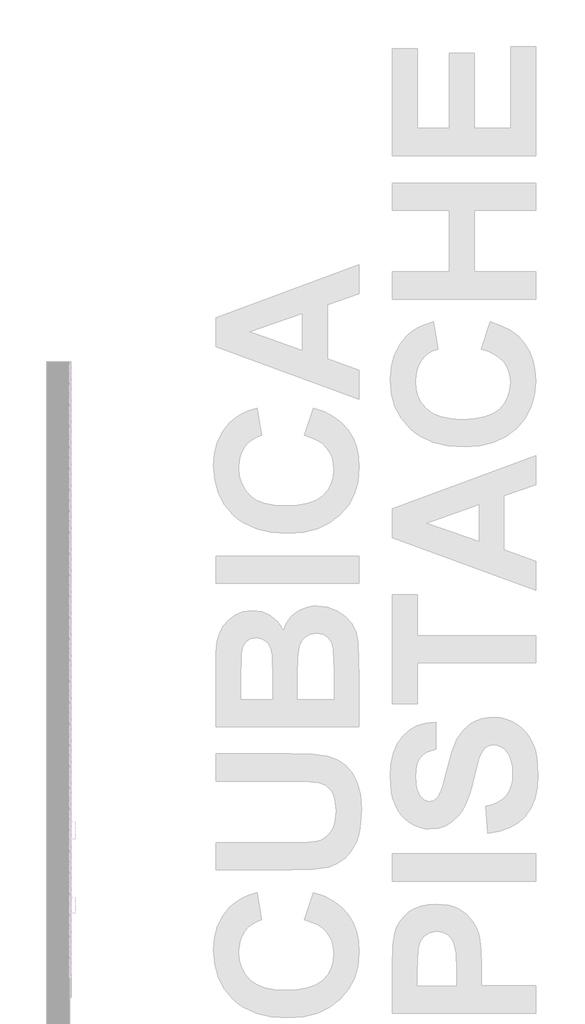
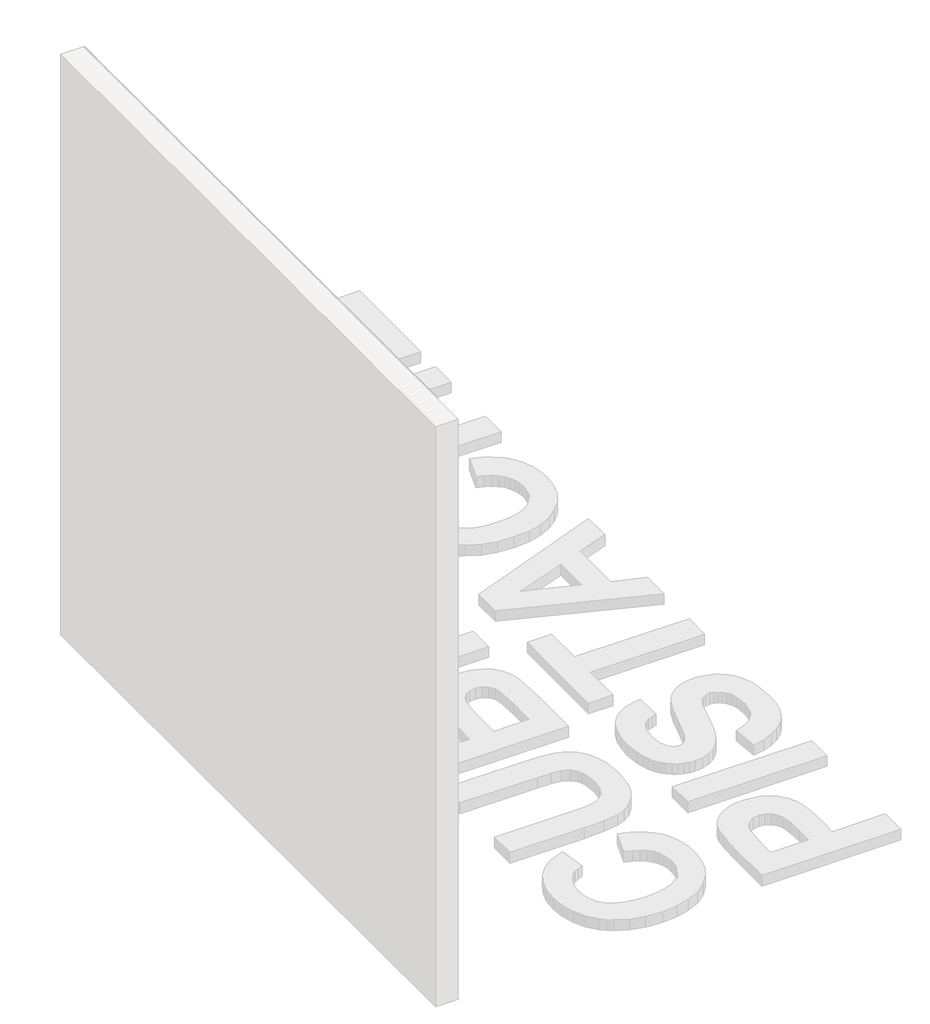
# One storey, part 93 of 121: 144 proxies.
"""IFC4 building model written with IfcOpenShell, lengths in millimetres."""

from ifc_helpers import new_model, si_unit, origin, place, context, project, spatial, transform, mapped, element, save
from components import generic_models_b2b2c5c1, generic_models_9bf73f6f, generic_models_5d175859, generic_models_336a48c1, generic_models_3c04e8e5, generic_models_0bb79e7c, generic_models_61989c10

model = new_model("IFC4")

# Units and contexts
model_context = context("Model", 3, world=origin())
ifc_project = project(units=[si_unit("LENGTHUNIT", "METRE", prefix="MILLI")], contexts=[model_context])

# Site, building, storey
site = spatial("IfcSite", under=ifc_project)
building = spatial("IfcBuilding", under=site)
storey = spatial("IfcBuildingStorey", under=building, Name="PORTOBELLO - SHOWROOM", Elevation=0.0)

# Proxies
placement = place(None, origin())
generic_models_shape = generic_models_b2b2c5c1(model_context)
element("IfcBuildingElementProxy", 1, Name="PBSHOP - CUBICA PISTACHE 4,8X8,3 : CUBICA PISTACHE - POSIÇÃO 01", ObjectType="PBSHOP - CUBICA PISTACHE 4,8X8,3 : CUBICA PISTACHE - POSIÇÃO 01", at=placement, inside=storey, context=model_context, shape_type="MappedRepresentation", body=[
    mapped(generic_models_shape, transform((150369.5341846, 15067.5294767, 355.1607203), x_axis=(0.0, 1.0, 0.0), y_axis=(0.0, 0.0, 1.0), z_axis=(1.0, 0.0, 0.0))),
])
element("IfcBuildingElementProxy", 2, Name="PBSHOP - CUBICA PISTACHE 4,8X8,3 : CUBICA PISTACHE - POSIÇÃO 01", ObjectType="PBSHOP - CUBICA PISTACHE 4,8X8,3 : CUBICA PISTACHE - POSIÇÃO 01", at=placement, inside=storey, context=model_context, shape_type="MappedRepresentation", body=[
    mapped(generic_models_shape, transform((150369.5341846, 15158.3687459, 355.1607203), x_axis=(0.0, 1.0, 0.0), y_axis=(0.0, 0.0, 1.0), z_axis=(1.0, 0.0, 0.0))),
])
element("IfcBuildingElementProxy", 3, Name="PBSHOP - CUBICA PISTACHE 4,8X8,3 : CUBICA PISTACHE - POSIÇÃO 01", ObjectType="PBSHOP - CUBICA PISTACHE 4,8X8,3 : CUBICA PISTACHE - POSIÇÃO 01", at=placement, inside=storey, context=model_context, shape_type="MappedRepresentation", body=[
    mapped(generic_models_shape, transform((150369.5341846, 15249.2080152, 355.1607203), x_axis=(0.0, 1.0, 0.0), y_axis=(0.0, 0.0, 1.0), z_axis=(1.0, 0.0, 0.0))),
])
element("IfcBuildingElementProxy", 4, Name="PBSHOP - CUBICA PISTACHE 4,8X8,3 : CUBICA PISTACHE - POSIÇÃO 01", ObjectType="PBSHOP - CUBICA PISTACHE 4,8X8,3 : CUBICA PISTACHE - POSIÇÃO 01", at=placement, inside=storey, context=model_context, shape_type="MappedRepresentation", body=[
    mapped(generic_models_shape, transform((150369.5341846, 15340.0472844, 355.1607203), x_axis=(0.0, 1.0, 0.0), y_axis=(0.0, 0.0, 1.0), z_axis=(1.0, 0.0, 0.0))),
])
element("IfcBuildingElementProxy", 5, Name="PBSHOP - CUBICA PISTACHE 4,8X8,3 : CUBICA PISTACHE - POSIÇÃO 01", ObjectType="PBSHOP - CUBICA PISTACHE 4,8X8,3 : CUBICA PISTACHE - POSIÇÃO 01", at=placement, inside=storey, context=model_context, shape_type="MappedRepresentation", body=[
    mapped(generic_models_shape, transform((150369.5341846, 15430.8865536, 355.1607203), x_axis=(0.0, 1.0, 0.0), y_axis=(0.0, 0.0, 1.0), z_axis=(1.0, 0.0, 0.0))),
])
element("IfcBuildingElementProxy", 6, Name="PBSHOP - CUBICA PISTACHE 4,8X8,3 : CUBICA PISTACHE - POSIÇÃO 01", ObjectType="PBSHOP - CUBICA PISTACHE 4,8X8,3 : CUBICA PISTACHE - POSIÇÃO 01", at=placement, inside=storey, context=model_context, shape_type="MappedRepresentation", body=[
    mapped(generic_models_shape, transform((150369.5341846, 15521.7258229, 355.1607203), x_axis=(0.0, 1.0, 0.0), y_axis=(0.0, 0.0, 1.0), z_axis=(1.0, 0.0, 0.0))),
])
element("IfcBuildingElementProxy", 7, Name="PBSHOP - CUBICA PISTACHE 4,8X8,3 : CUBICA PISTACHE - POSIÇÃO 01", ObjectType="PBSHOP - CUBICA PISTACHE 4,8X8,3 : CUBICA PISTACHE - POSIÇÃO 01", at=placement, inside=storey, context=model_context, shape_type="MappedRepresentation", body=[
    mapped(generic_models_shape, transform((150369.5341846, 15022.109842, 434.0953587), x_axis=(0.0, 1.0, 0.0), y_axis=(0.0, 0.0, 1.0), z_axis=(1.0, 0.0, 0.0))),
])
element("IfcBuildingElementProxy", 8, Name="PBSHOP - CUBICA PISTACHE 4,8X8,3 : CUBICA PISTACHE - POSIÇÃO 01", ObjectType="PBSHOP - CUBICA PISTACHE 4,8X8,3 : CUBICA PISTACHE - POSIÇÃO 01", at=placement, inside=storey, context=model_context, shape_type="MappedRepresentation", body=[
    mapped(generic_models_shape, transform((150369.5341846, 15112.9491113, 434.0953587), x_axis=(0.0, 1.0, 0.0), y_axis=(0.0, 0.0, 1.0), z_axis=(1.0, 0.0, 0.0))),
])
element("IfcBuildingElementProxy", 9, Name="PBSHOP - CUBICA PISTACHE 4,8X8,3 : CUBICA PISTACHE - POSIÇÃO 01", ObjectType="PBSHOP - CUBICA PISTACHE 4,8X8,3 : CUBICA PISTACHE - POSIÇÃO 01", at=placement, inside=storey, context=model_context, shape_type="MappedRepresentation", body=[
    mapped(generic_models_shape, transform((150369.5341846, 15203.7883805, 434.0953587), x_axis=(0.0, 1.0, 0.0), y_axis=(0.0, 0.0, 1.0), z_axis=(1.0, 0.0, 0.0))),
])
element("IfcBuildingElementProxy", 10, Name="PBSHOP - CUBICA PISTACHE 4,8X8,3 : CUBICA PISTACHE - POSIÇÃO 01", ObjectType="PBSHOP - CUBICA PISTACHE 4,8X8,3 : CUBICA PISTACHE - POSIÇÃO 01", at=placement, inside=storey, context=model_context, shape_type="MappedRepresentation", body=[
    mapped(generic_models_shape, transform((150369.5341846, 15294.6276498, 434.0953587), x_axis=(0.0, 1.0, 0.0), y_axis=(0.0, 0.0, 1.0), z_axis=(1.0, 0.0, 0.0))),
])
element("IfcBuildingElementProxy", 11, Name="PBSHOP - CUBICA PISTACHE 4,8X8,3 : CUBICA PISTACHE - POSIÇÃO 01", ObjectType="PBSHOP - CUBICA PISTACHE 4,8X8,3 : CUBICA PISTACHE - POSIÇÃO 01", at=placement, inside=storey, context=model_context, shape_type="MappedRepresentation", body=[
    mapped(generic_models_shape, transform((150369.5341846, 15385.466919, 434.0953587), x_axis=(0.0, 1.0, 0.0), y_axis=(0.0, 0.0, 1.0), z_axis=(1.0, 0.0, 0.0))),
])
element("IfcBuildingElementProxy", 12, Name="PBSHOP - CUBICA PISTACHE 4,8X8,3 : CUBICA PISTACHE - POSIÇÃO 01", ObjectType="PBSHOP - CUBICA PISTACHE 4,8X8,3 : CUBICA PISTACHE - POSIÇÃO 01", at=placement, inside=storey, context=model_context, shape_type="MappedRepresentation", body=[
    mapped(generic_models_shape, transform((150369.5341846, 15476.3061883, 434.0953587), x_axis=(0.0, 1.0, 0.0), y_axis=(0.0, 0.0, 1.0), z_axis=(1.0, 0.0, 0.0))),
])
element("IfcBuildingElementProxy", 13, Name="PBSHOP - CUBICA PISTACHE 4,8X8,3 : CUBICA PISTACHE - POSIÇÃO 01", ObjectType="PBSHOP - CUBICA PISTACHE 4,8X8,3 : CUBICA PISTACHE - POSIÇÃO 01", at=placement, inside=storey, context=model_context, shape_type="MappedRepresentation", body=[
    mapped(generic_models_shape, transform((150369.5341846, 15567.1454575, 434.0953587), x_axis=(0.0, 1.0, 0.0), y_axis=(0.0, 0.0, 1.0), z_axis=(1.0, 0.0, 0.0))),
])
element("IfcBuildingElementProxy", 14, Name="PBSHOP - CUBICA PISTACHE 4,8X8,3 : CUBICA PISTACHE - POSIÇÃO 01", ObjectType="PBSHOP - CUBICA PISTACHE 4,8X8,3 : CUBICA PISTACHE - POSIÇÃO 01", at=placement, inside=storey, context=model_context, shape_type="MappedRepresentation", body=[
    mapped(generic_models_shape, transform((150369.5341846, 15067.5294767, 513.0299971), x_axis=(0.0, 1.0, 0.0), y_axis=(0.0, 0.0, 1.0), z_axis=(1.0, 0.0, 0.0))),
])
element("IfcBuildingElementProxy", 15, Name="PBSHOP - CUBICA PISTACHE 4,8X8,3 : CUBICA PISTACHE - POSIÇÃO 01", ObjectType="PBSHOP - CUBICA PISTACHE 4,8X8,3 : CUBICA PISTACHE - POSIÇÃO 01", at=placement, inside=storey, context=model_context, shape_type="MappedRepresentation", body=[
    mapped(generic_models_shape, transform((150369.5341846, 15158.3687459, 513.0299971), x_axis=(0.0, 1.0, 0.0), y_axis=(0.0, 0.0, 1.0), z_axis=(1.0, 0.0, 0.0))),
])
element("IfcBuildingElementProxy", 16, Name="PBSHOP - CUBICA PISTACHE 4,8X8,3 : CUBICA PISTACHE - POSIÇÃO 01", ObjectType="PBSHOP - CUBICA PISTACHE 4,8X8,3 : CUBICA PISTACHE - POSIÇÃO 01", at=placement, inside=storey, context=model_context, shape_type="MappedRepresentation", body=[
    mapped(generic_models_shape, transform((150369.5341846, 15249.2080152, 513.0299971), x_axis=(0.0, 1.0, 0.0), y_axis=(0.0, 0.0, 1.0), z_axis=(1.0, 0.0, 0.0))),
])
element("IfcBuildingElementProxy", 17, Name="PBSHOP - CUBICA PISTACHE 4,8X8,3 : CUBICA PISTACHE - POSIÇÃO 01", ObjectType="PBSHOP - CUBICA PISTACHE 4,8X8,3 : CUBICA PISTACHE - POSIÇÃO 01", at=placement, inside=storey, context=model_context, shape_type="MappedRepresentation", body=[
    mapped(generic_models_shape, transform((150369.5341846, 15340.0472844, 513.0299971), x_axis=(0.0, 1.0, 0.0), y_axis=(0.0, 0.0, 1.0), z_axis=(1.0, 0.0, 0.0))),
])
element("IfcBuildingElementProxy", 18, Name="PBSHOP - CUBICA PISTACHE 4,8X8,3 : CUBICA PISTACHE - POSIÇÃO 01", ObjectType="PBSHOP - CUBICA PISTACHE 4,8X8,3 : CUBICA PISTACHE - POSIÇÃO 01", at=placement, inside=storey, context=model_context, shape_type="MappedRepresentation", body=[
    mapped(generic_models_shape, transform((150369.5341846, 15430.8865536, 513.0299971), x_axis=(0.0, 1.0, 0.0), y_axis=(0.0, 0.0, 1.0), z_axis=(1.0, 0.0, 0.0))),
])
element("IfcBuildingElementProxy", 19, Name="PBSHOP - CUBICA PISTACHE 4,8X8,3 : CUBICA PISTACHE - POSIÇÃO 01", ObjectType="PBSHOP - CUBICA PISTACHE 4,8X8,3 : CUBICA PISTACHE - POSIÇÃO 01", at=placement, inside=storey, context=model_context, shape_type="MappedRepresentation", body=[
    mapped(generic_models_shape, transform((150369.5341846, 15521.7258229, 513.0299971), x_axis=(0.0, 1.0, 0.0), y_axis=(0.0, 0.0, 1.0), z_axis=(1.0, 0.0, 0.0))),
])
element("IfcBuildingElementProxy", 20, Name="PBSHOP - CUBICA PISTACHE 4,8X8,3 : CUBICA PISTACHE - POSIÇÃO 01", ObjectType="PBSHOP - CUBICA PISTACHE 4,8X8,3 : CUBICA PISTACHE - POSIÇÃO 01", at=placement, inside=storey, context=model_context, shape_type="MappedRepresentation", body=[
    mapped(generic_models_shape, transform((150369.5341846, 15022.109842, 591.9646354), x_axis=(0.0, 1.0, 0.0), y_axis=(0.0, 0.0, 1.0), z_axis=(1.0, 0.0, 0.0))),
])
element("IfcBuildingElementProxy", 21, Name="PBSHOP - CUBICA PISTACHE 4,8X8,3 : CUBICA PISTACHE - POSIÇÃO 01", ObjectType="PBSHOP - CUBICA PISTACHE 4,8X8,3 : CUBICA PISTACHE - POSIÇÃO 01", at=placement, inside=storey, context=model_context, shape_type="MappedRepresentation", body=[
    mapped(generic_models_shape, transform((150369.5341846, 15112.9491113, 591.9646354), x_axis=(0.0, 1.0, 0.0), y_axis=(0.0, 0.0, 1.0), z_axis=(1.0, 0.0, 0.0))),
])
element("IfcBuildingElementProxy", 22, Name="PBSHOP - CUBICA PISTACHE 4,8X8,3 : CUBICA PISTACHE - POSIÇÃO 01", ObjectType="PBSHOP - CUBICA PISTACHE 4,8X8,3 : CUBICA PISTACHE - POSIÇÃO 01", at=placement, inside=storey, context=model_context, shape_type="MappedRepresentation", body=[
    mapped(generic_models_shape, transform((150369.5341846, 15203.7883805, 591.9646354), x_axis=(0.0, 1.0, 0.0), y_axis=(0.0, 0.0, 1.0), z_axis=(1.0, 0.0, 0.0))),
])
element("IfcBuildingElementProxy", 23, Name="PBSHOP - CUBICA PISTACHE 4,8X8,3 : CUBICA PISTACHE - POSIÇÃO 01", ObjectType="PBSHOP - CUBICA PISTACHE 4,8X8,3 : CUBICA PISTACHE - POSIÇÃO 01", at=placement, inside=storey, context=model_context, shape_type="MappedRepresentation", body=[
    mapped(generic_models_shape, transform((150369.5341846, 15294.6276498, 591.9646354), x_axis=(0.0, 1.0, 0.0), y_axis=(0.0, 0.0, 1.0), z_axis=(1.0, 0.0, 0.0))),
])
element("IfcBuildingElementProxy", 24, Name="PBSHOP - CUBICA PISTACHE 4,8X8,3 : CUBICA PISTACHE - POSIÇÃO 01", ObjectType="PBSHOP - CUBICA PISTACHE 4,8X8,3 : CUBICA PISTACHE - POSIÇÃO 01", at=placement, inside=storey, context=model_context, shape_type="MappedRepresentation", body=[
    mapped(generic_models_shape, transform((150369.5341846, 15385.466919, 591.9646354), x_axis=(0.0, 1.0, 0.0), y_axis=(0.0, 0.0, 1.0), z_axis=(1.0, 0.0, 0.0))),
])
element("IfcBuildingElementProxy", 25, Name="PBSHOP - CUBICA PISTACHE 4,8X8,3 : CUBICA PISTACHE - POSIÇÃO 01", ObjectType="PBSHOP - CUBICA PISTACHE 4,8X8,3 : CUBICA PISTACHE - POSIÇÃO 01", at=placement, inside=storey, context=model_context, shape_type="MappedRepresentation", body=[
    mapped(generic_models_shape, transform((150369.5341846, 15476.3061883, 591.9646354), x_axis=(0.0, 1.0, 0.0), y_axis=(0.0, 0.0, 1.0), z_axis=(1.0, 0.0, 0.0))),
])
element("IfcBuildingElementProxy", 26, Name="PBSHOP - CUBICA PISTACHE 4,8X8,3 : CUBICA PISTACHE - POSIÇÃO 01", ObjectType="PBSHOP - CUBICA PISTACHE 4,8X8,3 : CUBICA PISTACHE - POSIÇÃO 01", at=placement, inside=storey, context=model_context, shape_type="MappedRepresentation", body=[
    mapped(generic_models_shape, transform((150369.5341846, 15567.1454575, 591.9646354), x_axis=(0.0, 1.0, 0.0), y_axis=(0.0, 0.0, 1.0), z_axis=(1.0, 0.0, 0.0))),
])
element("IfcBuildingElementProxy", 27, Name="PBSHOP - CUBICA PISTACHE 4,8X8,3 : CUBICA PISTACHE - POSIÇÃO 01", ObjectType="PBSHOP - CUBICA PISTACHE 4,8X8,3 : CUBICA PISTACHE - POSIÇÃO 01", at=placement, inside=storey, context=model_context, shape_type="MappedRepresentation", body=[
    mapped(generic_models_shape, transform((150369.5341846, 15067.5294767, 670.8992738), x_axis=(0.0, 1.0, 0.0), y_axis=(0.0, 0.0, 1.0), z_axis=(1.0, 0.0, 0.0))),
])
element("IfcBuildingElementProxy", 28, Name="PBSHOP - CUBICA PISTACHE 4,8X8,3 : CUBICA PISTACHE - POSIÇÃO 01", ObjectType="PBSHOP - CUBICA PISTACHE 4,8X8,3 : CUBICA PISTACHE - POSIÇÃO 01", at=placement, inside=storey, context=model_context, shape_type="MappedRepresentation", body=[
    mapped(generic_models_shape, transform((150369.5341846, 15158.3687459, 670.8992738), x_axis=(0.0, 1.0, 0.0), y_axis=(0.0, 0.0, 1.0), z_axis=(1.0, 0.0, 0.0))),
])
element("IfcBuildingElementProxy", 29, Name="PBSHOP - CUBICA PISTACHE 4,8X8,3 : CUBICA PISTACHE - POSIÇÃO 01", ObjectType="PBSHOP - CUBICA PISTACHE 4,8X8,3 : CUBICA PISTACHE - POSIÇÃO 01", at=placement, inside=storey, context=model_context, shape_type="MappedRepresentation", body=[
    mapped(generic_models_shape, transform((150369.5341846, 15249.2080152, 670.8992738), x_axis=(0.0, 1.0, 0.0), y_axis=(0.0, 0.0, 1.0), z_axis=(1.0, 0.0, 0.0))),
])
element("IfcBuildingElementProxy", 30, Name="PBSHOP - CUBICA PISTACHE 4,8X8,3 : CUBICA PISTACHE - POSIÇÃO 01", ObjectType="PBSHOP - CUBICA PISTACHE 4,8X8,3 : CUBICA PISTACHE - POSIÇÃO 01", at=placement, inside=storey, context=model_context, shape_type="MappedRepresentation", body=[
    mapped(generic_models_shape, transform((150369.5341846, 15340.0472844, 670.8992738), x_axis=(0.0, 1.0, 0.0), y_axis=(0.0, 0.0, 1.0), z_axis=(1.0, 0.0, 0.0))),
])
element("IfcBuildingElementProxy", 31, Name="PBSHOP - CUBICA PISTACHE 4,8X8,3 : CUBICA PISTACHE - POSIÇÃO 01", ObjectType="PBSHOP - CUBICA PISTACHE 4,8X8,3 : CUBICA PISTACHE - POSIÇÃO 01", at=placement, inside=storey, context=model_context, shape_type="MappedRepresentation", body=[
    mapped(generic_models_shape, transform((150369.5341846, 15430.8865536, 670.8992738), x_axis=(0.0, 1.0, 0.0), y_axis=(0.0, 0.0, 1.0), z_axis=(1.0, 0.0, 0.0))),
])
element("IfcBuildingElementProxy", 32, Name="PBSHOP - CUBICA PISTACHE 4,8X8,3 : CUBICA PISTACHE - POSIÇÃO 01", ObjectType="PBSHOP - CUBICA PISTACHE 4,8X8,3 : CUBICA PISTACHE - POSIÇÃO 01", at=placement, inside=storey, context=model_context, shape_type="MappedRepresentation", body=[
    mapped(generic_models_shape, transform((150369.5341846, 15521.7258229, 670.8992738), x_axis=(0.0, 1.0, 0.0), y_axis=(0.0, 0.0, 1.0), z_axis=(1.0, 0.0, 0.0))),
])
element("IfcBuildingElementProxy", 33, Name="PBSHOP - CUBICA PISTACHE 4,8X8,3 : CUBICA PISTACHE - POSIÇÃO 01", ObjectType="PBSHOP - CUBICA PISTACHE 4,8X8,3 : CUBICA PISTACHE - POSIÇÃO 01", at=placement, inside=storey, context=model_context, shape_type="MappedRepresentation", body=[
    mapped(generic_models_shape, transform((150369.5341846, 15022.109842, 749.8339122), x_axis=(0.0, 1.0, 0.0), y_axis=(0.0, 0.0, 1.0), z_axis=(1.0, 0.0, 0.0))),
])
element("IfcBuildingElementProxy", 34, Name="PBSHOP - CUBICA PISTACHE 4,8X8,3 : CUBICA PISTACHE - POSIÇÃO 01", ObjectType="PBSHOP - CUBICA PISTACHE 4,8X8,3 : CUBICA PISTACHE - POSIÇÃO 01", at=placement, inside=storey, context=model_context, shape_type="MappedRepresentation", body=[
    mapped(generic_models_shape, transform((150369.5341846, 15112.9491113, 749.8339122), x_axis=(0.0, 1.0, 0.0), y_axis=(0.0, 0.0, 1.0), z_axis=(1.0, 0.0, 0.0))),
])
element("IfcBuildingElementProxy", 35, Name="PBSHOP - CUBICA PISTACHE 4,8X8,3 : CUBICA PISTACHE - POSIÇÃO 01", ObjectType="PBSHOP - CUBICA PISTACHE 4,8X8,3 : CUBICA PISTACHE - POSIÇÃO 01", at=placement, inside=storey, context=model_context, shape_type="MappedRepresentation", body=[
    mapped(generic_models_shape, transform((150369.5341846, 15203.7883805, 749.8339122), x_axis=(0.0, 1.0, 0.0), y_axis=(0.0, 0.0, 1.0), z_axis=(1.0, 0.0, 0.0))),
])
element("IfcBuildingElementProxy", 36, Name="PBSHOP - CUBICA PISTACHE 4,8X8,3 : CUBICA PISTACHE - POSIÇÃO 01", ObjectType="PBSHOP - CUBICA PISTACHE 4,8X8,3 : CUBICA PISTACHE - POSIÇÃO 01", at=placement, inside=storey, context=model_context, shape_type="MappedRepresentation", body=[
    mapped(generic_models_shape, transform((150369.5341846, 15294.6276498, 749.8339122), x_axis=(0.0, 1.0, 0.0), y_axis=(0.0, 0.0, 1.0), z_axis=(1.0, 0.0, 0.0))),
])
element("IfcBuildingElementProxy", 37, Name="PBSHOP - CUBICA PISTACHE 4,8X8,3 : CUBICA PISTACHE - POSIÇÃO 01", ObjectType="PBSHOP - CUBICA PISTACHE 4,8X8,3 : CUBICA PISTACHE - POSIÇÃO 01", at=placement, inside=storey, context=model_context, shape_type="MappedRepresentation", body=[
    mapped(generic_models_shape, transform((150369.5341846, 15385.466919, 749.8339122), x_axis=(0.0, 1.0, 0.0), y_axis=(0.0, 0.0, 1.0), z_axis=(1.0, 0.0, 0.0))),
])
element("IfcBuildingElementProxy", 38, Name="PBSHOP - CUBICA PISTACHE 4,8X8,3 : CUBICA PISTACHE - POSIÇÃO 01", ObjectType="PBSHOP - CUBICA PISTACHE 4,8X8,3 : CUBICA PISTACHE - POSIÇÃO 01", at=placement, inside=storey, context=model_context, shape_type="MappedRepresentation", body=[
    mapped(generic_models_shape, transform((150369.5341846, 15476.3061883, 749.8339122), x_axis=(0.0, 1.0, 0.0), y_axis=(0.0, 0.0, 1.0), z_axis=(1.0, 0.0, 0.0))),
])
element("IfcBuildingElementProxy", 39, Name="PBSHOP - CUBICA PISTACHE 4,8X8,3 : CUBICA PISTACHE - POSIÇÃO 01", ObjectType="PBSHOP - CUBICA PISTACHE 4,8X8,3 : CUBICA PISTACHE - POSIÇÃO 01", at=placement, inside=storey, context=model_context, shape_type="MappedRepresentation", body=[
    mapped(generic_models_shape, transform((150369.5341846, 15567.1454575, 749.8339122), x_axis=(0.0, 1.0, 0.0), y_axis=(0.0, 0.0, 1.0), z_axis=(1.0, 0.0, 0.0))),
])
element("IfcBuildingElementProxy", 40, Name="PBSHOP - CUBICA PISTACHE 4,8X8,3 : CUBICA PISTACHE - POSIÇÃO 01", ObjectType="PBSHOP - CUBICA PISTACHE 4,8X8,3 : CUBICA PISTACHE - POSIÇÃO 01", at=placement, inside=storey, context=model_context, shape_type="MappedRepresentation", body=[
    mapped(generic_models_shape, transform((150369.5341846, 15067.5294767, 828.7685506), x_axis=(0.0, 1.0, 0.0), y_axis=(0.0, 0.0, 1.0), z_axis=(1.0, 0.0, 0.0))),
])
element("IfcBuildingElementProxy", 41, Name="PBSHOP - CUBICA PISTACHE 4,8X8,3 : CUBICA PISTACHE - POSIÇÃO 01", ObjectType="PBSHOP - CUBICA PISTACHE 4,8X8,3 : CUBICA PISTACHE - POSIÇÃO 01", at=placement, inside=storey, context=model_context, shape_type="MappedRepresentation", body=[
    mapped(generic_models_shape, transform((150369.5341846, 15158.3687459, 828.7685506), x_axis=(0.0, 1.0, 0.0), y_axis=(0.0, 0.0, 1.0), z_axis=(1.0, 0.0, 0.0))),
])
element("IfcBuildingElementProxy", 42, Name="PBSHOP - CUBICA PISTACHE 4,8X8,3 : CUBICA PISTACHE - POSIÇÃO 01", ObjectType="PBSHOP - CUBICA PISTACHE 4,8X8,3 : CUBICA PISTACHE - POSIÇÃO 01", at=placement, inside=storey, context=model_context, shape_type="MappedRepresentation", body=[
    mapped(generic_models_shape, transform((150369.5341846, 15249.2080152, 828.7685506), x_axis=(0.0, 1.0, 0.0), y_axis=(0.0, 0.0, 1.0), z_axis=(1.0, 0.0, 0.0))),
])
element("IfcBuildingElementProxy", 43, Name="PBSHOP - CUBICA PISTACHE 4,8X8,3 : CUBICA PISTACHE - POSIÇÃO 01", ObjectType="PBSHOP - CUBICA PISTACHE 4,8X8,3 : CUBICA PISTACHE - POSIÇÃO 01", at=placement, inside=storey, context=model_context, shape_type="MappedRepresentation", body=[
    mapped(generic_models_shape, transform((150369.5341846, 15340.0472844, 828.7685506), x_axis=(0.0, 1.0, 0.0), y_axis=(0.0, 0.0, 1.0), z_axis=(1.0, 0.0, 0.0))),
])
element("IfcBuildingElementProxy", 44, Name="PBSHOP - CUBICA PISTACHE 4,8X8,3 : CUBICA PISTACHE - POSIÇÃO 01", ObjectType="PBSHOP - CUBICA PISTACHE 4,8X8,3 : CUBICA PISTACHE - POSIÇÃO 01", at=placement, inside=storey, context=model_context, shape_type="MappedRepresentation", body=[
    mapped(generic_models_shape, transform((150369.5341846, 15430.8865536, 828.7685506), x_axis=(0.0, 1.0, 0.0), y_axis=(0.0, 0.0, 1.0), z_axis=(1.0, 0.0, 0.0))),
])
element("IfcBuildingElementProxy", 45, Name="PBSHOP - CUBICA PISTACHE 4,8X8,3 : CUBICA PISTACHE - POSIÇÃO 01", ObjectType="PBSHOP - CUBICA PISTACHE 4,8X8,3 : CUBICA PISTACHE - POSIÇÃO 01", at=placement, inside=storey, context=model_context, shape_type="MappedRepresentation", body=[
    mapped(generic_models_shape, transform((150369.5341846, 15521.7258229, 828.7685506), x_axis=(0.0, 1.0, 0.0), y_axis=(0.0, 0.0, 1.0), z_axis=(1.0, 0.0, 0.0))),
])
generic_models_2_shape = generic_models_9bf73f6f(model_context)
element("IfcBuildingElementProxy", 46, Name="PBSHOP - CUBICA PISTACHE 4,8X8,3 : CUBICA PISTACHE - POSIÇÃO 03", ObjectType="PBSHOP - CUBICA PISTACHE 4,8X8,3 : CUBICA PISTACHE - POSIÇÃO 03", at=placement, inside=storey, context=model_context, shape_type="MappedRepresentation", body=[
    mapped(generic_models_2_shape, transform((150369.5341846, 15453.5985301, 236.7175523), x_axis=(0.0, 1.0, 0.0), y_axis=(0.0, 0.0, 1.0), z_axis=(1.0, 0.0, 0.0))),
])
element("IfcBuildingElementProxy", 47, Name="PBSHOP - CUBICA PISTACHE 4,8X8,3 : CUBICA PISTACHE - POSIÇÃO 03", ObjectType="PBSHOP - CUBICA PISTACHE 4,8X8,3 : CUBICA PISTACHE - POSIÇÃO 03", at=placement, inside=storey, context=model_context, shape_type="MappedRepresentation", body=[
    mapped(generic_models_2_shape, transform((150369.5341846, 15544.4377994, 236.7175523), x_axis=(0.0, 1.0, 0.0), y_axis=(0.0, 0.0, 1.0), z_axis=(1.0, 0.0, 0.0))),
])
element("IfcBuildingElementProxy", 48, Name="PBSHOP - CUBICA PISTACHE 4,8X8,3 : CUBICA PISTACHE - POSIÇÃO 03", ObjectType="PBSHOP - CUBICA PISTACHE 4,8X8,3 : CUBICA PISTACHE - POSIÇÃO 03", at=placement, inside=storey, context=model_context, shape_type="MappedRepresentation", body=[
    mapped(generic_models_2_shape, transform((150369.5341846, 15044.8218185, 315.6521907), x_axis=(0.0, 1.0, 0.0), y_axis=(0.0, 0.0, 1.0), z_axis=(1.0, 0.0, 0.0))),
])
element("IfcBuildingElementProxy", 49, Name="PBSHOP - CUBICA PISTACHE 4,8X8,3 : CUBICA PISTACHE - POSIÇÃO 03", ObjectType="PBSHOP - CUBICA PISTACHE 4,8X8,3 : CUBICA PISTACHE - POSIÇÃO 03", at=placement, inside=storey, context=model_context, shape_type="MappedRepresentation", body=[
    mapped(generic_models_2_shape, transform((150369.5341846, 15135.6610878, 315.6521907), x_axis=(0.0, 1.0, 0.0), y_axis=(0.0, 0.0, 1.0), z_axis=(1.0, 0.0, 0.0))),
])
element("IfcBuildingElementProxy", 50, Name="PBSHOP - CUBICA PISTACHE 4,8X8,3 : CUBICA PISTACHE - POSIÇÃO 03", ObjectType="PBSHOP - CUBICA PISTACHE 4,8X8,3 : CUBICA PISTACHE - POSIÇÃO 03", at=placement, inside=storey, context=model_context, shape_type="MappedRepresentation", body=[
    mapped(generic_models_2_shape, transform((150369.5341846, 15226.500357, 315.6521907), x_axis=(0.0, 1.0, 0.0), y_axis=(0.0, 0.0, 1.0), z_axis=(1.0, 0.0, 0.0))),
])
element("IfcBuildingElementProxy", 51, Name="PBSHOP - CUBICA PISTACHE 4,8X8,3 : CUBICA PISTACHE - POSIÇÃO 03", ObjectType="PBSHOP - CUBICA PISTACHE 4,8X8,3 : CUBICA PISTACHE - POSIÇÃO 03", at=placement, inside=storey, context=model_context, shape_type="MappedRepresentation", body=[
    mapped(generic_models_2_shape, transform((150369.5341846, 15317.3396263, 315.6521907), x_axis=(0.0, 1.0, 0.0), y_axis=(0.0, 0.0, 1.0), z_axis=(1.0, 0.0, 0.0))),
])
element("IfcBuildingElementProxy", 52, Name="PBSHOP - CUBICA PISTACHE 4,8X8,3 : CUBICA PISTACHE - POSIÇÃO 03", ObjectType="PBSHOP - CUBICA PISTACHE 4,8X8,3 : CUBICA PISTACHE - POSIÇÃO 03", at=placement, inside=storey, context=model_context, shape_type="MappedRepresentation", body=[
    mapped(generic_models_2_shape, transform((150369.5341846, 15408.1788955, 315.6521907), x_axis=(0.0, 1.0, 0.0), y_axis=(0.0, 0.0, 1.0), z_axis=(1.0, 0.0, 0.0))),
])
element("IfcBuildingElementProxy", 53, Name="PBSHOP - CUBICA PISTACHE 4,8X8,3 : CUBICA PISTACHE - POSIÇÃO 03", ObjectType="PBSHOP - CUBICA PISTACHE 4,8X8,3 : CUBICA PISTACHE - POSIÇÃO 03", at=placement, inside=storey, context=model_context, shape_type="MappedRepresentation", body=[
    mapped(generic_models_2_shape, transform((150369.5341846, 15499.0181647, 315.6521907), x_axis=(0.0, 1.0, 0.0), y_axis=(0.0, 0.0, 1.0), z_axis=(1.0, 0.0, 0.0))),
])
element("IfcBuildingElementProxy", 54, Name="PBSHOP - CUBICA PISTACHE 4,8X8,3 : CUBICA PISTACHE - POSIÇÃO 03", ObjectType="PBSHOP - CUBICA PISTACHE 4,8X8,3 : CUBICA PISTACHE - POSIÇÃO 03", at=placement, inside=storey, context=model_context, shape_type="MappedRepresentation", body=[
    mapped(generic_models_2_shape, transform((150369.5341846, 15090.2414531, 394.5868291), x_axis=(0.0, 1.0, 0.0), y_axis=(0.0, 0.0, 1.0), z_axis=(1.0, 0.0, 0.0))),
])
element("IfcBuildingElementProxy", 55, Name="PBSHOP - CUBICA PISTACHE 4,8X8,3 : CUBICA PISTACHE - POSIÇÃO 03", ObjectType="PBSHOP - CUBICA PISTACHE 4,8X8,3 : CUBICA PISTACHE - POSIÇÃO 03", at=placement, inside=storey, context=model_context, shape_type="MappedRepresentation", body=[
    mapped(generic_models_2_shape, transform((150369.5341846, 15181.0807224, 394.5868291), x_axis=(0.0, 1.0, 0.0), y_axis=(0.0, 0.0, 1.0), z_axis=(1.0, 0.0, 0.0))),
])
element("IfcBuildingElementProxy", 56, Name="PBSHOP - CUBICA PISTACHE 4,8X8,3 : CUBICA PISTACHE - POSIÇÃO 03", ObjectType="PBSHOP - CUBICA PISTACHE 4,8X8,3 : CUBICA PISTACHE - POSIÇÃO 03", at=placement, inside=storey, context=model_context, shape_type="MappedRepresentation", body=[
    mapped(generic_models_2_shape, transform((150369.5341846, 15271.9199916, 394.5868291), x_axis=(0.0, 1.0, 0.0), y_axis=(0.0, 0.0, 1.0), z_axis=(1.0, 0.0, 0.0))),
])
element("IfcBuildingElementProxy", 57, Name="PBSHOP - CUBICA PISTACHE 4,8X8,3 : CUBICA PISTACHE - POSIÇÃO 03", ObjectType="PBSHOP - CUBICA PISTACHE 4,8X8,3 : CUBICA PISTACHE - POSIÇÃO 03", at=placement, inside=storey, context=model_context, shape_type="MappedRepresentation", body=[
    mapped(generic_models_2_shape, transform((150369.5341846, 15362.7592609, 394.5868291), x_axis=(0.0, 1.0, 0.0), y_axis=(0.0, 0.0, 1.0), z_axis=(1.0, 0.0, 0.0))),
])
element("IfcBuildingElementProxy", 58, Name="PBSHOP - CUBICA PISTACHE 4,8X8,3 : CUBICA PISTACHE - POSIÇÃO 03", ObjectType="PBSHOP - CUBICA PISTACHE 4,8X8,3 : CUBICA PISTACHE - POSIÇÃO 03", at=placement, inside=storey, context=model_context, shape_type="MappedRepresentation", body=[
    mapped(generic_models_2_shape, transform((150369.5341846, 15453.5985301, 394.5868291), x_axis=(0.0, 1.0, 0.0), y_axis=(0.0, 0.0, 1.0), z_axis=(1.0, 0.0, 0.0))),
])
element("IfcBuildingElementProxy", 59, Name="PBSHOP - CUBICA PISTACHE 4,8X8,3 : CUBICA PISTACHE - POSIÇÃO 03", ObjectType="PBSHOP - CUBICA PISTACHE 4,8X8,3 : CUBICA PISTACHE - POSIÇÃO 03", at=placement, inside=storey, context=model_context, shape_type="MappedRepresentation", body=[
    mapped(generic_models_2_shape, transform((150369.5341846, 15544.4377994, 394.5868291), x_axis=(0.0, 1.0, 0.0), y_axis=(0.0, 0.0, 1.0), z_axis=(1.0, 0.0, 0.0))),
])
element("IfcBuildingElementProxy", 60, Name="PBSHOP - CUBICA PISTACHE 4,8X8,3 : CUBICA PISTACHE - POSIÇÃO 03", ObjectType="PBSHOP - CUBICA PISTACHE 4,8X8,3 : CUBICA PISTACHE - POSIÇÃO 03", at=placement, inside=storey, context=model_context, shape_type="MappedRepresentation", body=[
    mapped(generic_models_2_shape, transform((150369.5341846, 15044.8218185, 473.5214674), x_axis=(0.0, 1.0, 0.0), y_axis=(0.0, 0.0, 1.0), z_axis=(1.0, 0.0, 0.0))),
])
element("IfcBuildingElementProxy", 61, Name="PBSHOP - CUBICA PISTACHE 4,8X8,3 : CUBICA PISTACHE - POSIÇÃO 03", ObjectType="PBSHOP - CUBICA PISTACHE 4,8X8,3 : CUBICA PISTACHE - POSIÇÃO 03", at=placement, inside=storey, context=model_context, shape_type="MappedRepresentation", body=[
    mapped(generic_models_2_shape, transform((150369.5341846, 15135.6610878, 473.5214674), x_axis=(0.0, 1.0, 0.0), y_axis=(0.0, 0.0, 1.0), z_axis=(1.0, 0.0, 0.0))),
])
element("IfcBuildingElementProxy", 62, Name="PBSHOP - CUBICA PISTACHE 4,8X8,3 : CUBICA PISTACHE - POSIÇÃO 03", ObjectType="PBSHOP - CUBICA PISTACHE 4,8X8,3 : CUBICA PISTACHE - POSIÇÃO 03", at=placement, inside=storey, context=model_context, shape_type="MappedRepresentation", body=[
    mapped(generic_models_2_shape, transform((150369.5341846, 15226.500357, 473.5214674), x_axis=(0.0, 1.0, 0.0), y_axis=(0.0, 0.0, 1.0), z_axis=(1.0, 0.0, 0.0))),
])
element("IfcBuildingElementProxy", 63, Name="PBSHOP - CUBICA PISTACHE 4,8X8,3 : CUBICA PISTACHE - POSIÇÃO 03", ObjectType="PBSHOP - CUBICA PISTACHE 4,8X8,3 : CUBICA PISTACHE - POSIÇÃO 03", at=placement, inside=storey, context=model_context, shape_type="MappedRepresentation", body=[
    mapped(generic_models_2_shape, transform((150369.5341846, 15317.3396263, 473.5214674), x_axis=(0.0, 1.0, 0.0), y_axis=(0.0, 0.0, 1.0), z_axis=(1.0, 0.0, 0.0))),
])
element("IfcBuildingElementProxy", 64, Name="PBSHOP - CUBICA PISTACHE 4,8X8,3 : CUBICA PISTACHE - POSIÇÃO 03", ObjectType="PBSHOP - CUBICA PISTACHE 4,8X8,3 : CUBICA PISTACHE - POSIÇÃO 03", at=placement, inside=storey, context=model_context, shape_type="MappedRepresentation", body=[
    mapped(generic_models_2_shape, transform((150369.5341846, 15408.1788955, 473.5214674), x_axis=(0.0, 1.0, 0.0), y_axis=(0.0, 0.0, 1.0), z_axis=(1.0, 0.0, 0.0))),
])
element("IfcBuildingElementProxy", 65, Name="PBSHOP - CUBICA PISTACHE 4,8X8,3 : CUBICA PISTACHE - POSIÇÃO 03", ObjectType="PBSHOP - CUBICA PISTACHE 4,8X8,3 : CUBICA PISTACHE - POSIÇÃO 03", at=placement, inside=storey, context=model_context, shape_type="MappedRepresentation", body=[
    mapped(generic_models_2_shape, transform((150369.5341846, 15499.0181647, 473.5214674), x_axis=(0.0, 1.0, 0.0), y_axis=(0.0, 0.0, 1.0), z_axis=(1.0, 0.0, 0.0))),
])
element("IfcBuildingElementProxy", 66, Name="PBSHOP - CUBICA PISTACHE 4,8X8,3 : CUBICA PISTACHE - POSIÇÃO 03", ObjectType="PBSHOP - CUBICA PISTACHE 4,8X8,3 : CUBICA PISTACHE - POSIÇÃO 03", at=placement, inside=storey, context=model_context, shape_type="MappedRepresentation", body=[
    mapped(generic_models_2_shape, transform((150369.5341846, 15090.2414531, 552.4561058), x_axis=(0.0, 1.0, 0.0), y_axis=(0.0, 0.0, 1.0), z_axis=(1.0, 0.0, 0.0))),
])
element("IfcBuildingElementProxy", 67, Name="PBSHOP - CUBICA PISTACHE 4,8X8,3 : CUBICA PISTACHE - POSIÇÃO 03", ObjectType="PBSHOP - CUBICA PISTACHE 4,8X8,3 : CUBICA PISTACHE - POSIÇÃO 03", at=placement, inside=storey, context=model_context, shape_type="MappedRepresentation", body=[
    mapped(generic_models_2_shape, transform((150369.5341846, 15181.0807224, 552.4561058), x_axis=(0.0, 1.0, 0.0), y_axis=(0.0, 0.0, 1.0), z_axis=(1.0, 0.0, 0.0))),
])
element("IfcBuildingElementProxy", 68, Name="PBSHOP - CUBICA PISTACHE 4,8X8,3 : CUBICA PISTACHE - POSIÇÃO 03", ObjectType="PBSHOP - CUBICA PISTACHE 4,8X8,3 : CUBICA PISTACHE - POSIÇÃO 03", at=placement, inside=storey, context=model_context, shape_type="MappedRepresentation", body=[
    mapped(generic_models_2_shape, transform((150369.5341846, 15271.9199916, 552.4561058), x_axis=(0.0, 1.0, 0.0), y_axis=(0.0, 0.0, 1.0), z_axis=(1.0, 0.0, 0.0))),
])
element("IfcBuildingElementProxy", 69, Name="PBSHOP - CUBICA PISTACHE 4,8X8,3 : CUBICA PISTACHE - POSIÇÃO 03", ObjectType="PBSHOP - CUBICA PISTACHE 4,8X8,3 : CUBICA PISTACHE - POSIÇÃO 03", at=placement, inside=storey, context=model_context, shape_type="MappedRepresentation", body=[
    mapped(generic_models_2_shape, transform((150369.5341846, 15362.7592609, 552.4561058), x_axis=(0.0, 1.0, 0.0), y_axis=(0.0, 0.0, 1.0), z_axis=(1.0, 0.0, 0.0))),
])
element("IfcBuildingElementProxy", 70, Name="PBSHOP - CUBICA PISTACHE 4,8X8,3 : CUBICA PISTACHE - POSIÇÃO 03", ObjectType="PBSHOP - CUBICA PISTACHE 4,8X8,3 : CUBICA PISTACHE - POSIÇÃO 03", at=placement, inside=storey, context=model_context, shape_type="MappedRepresentation", body=[
    mapped(generic_models_2_shape, transform((150369.5341846, 15453.5985301, 552.4561058), x_axis=(0.0, 1.0, 0.0), y_axis=(0.0, 0.0, 1.0), z_axis=(1.0, 0.0, 0.0))),
])
element("IfcBuildingElementProxy", 71, Name="PBSHOP - CUBICA PISTACHE 4,8X8,3 : CUBICA PISTACHE - POSIÇÃO 03", ObjectType="PBSHOP - CUBICA PISTACHE 4,8X8,3 : CUBICA PISTACHE - POSIÇÃO 03", at=placement, inside=storey, context=model_context, shape_type="MappedRepresentation", body=[
    mapped(generic_models_2_shape, transform((150369.5341846, 15544.4377994, 552.4561058), x_axis=(0.0, 1.0, 0.0), y_axis=(0.0, 0.0, 1.0), z_axis=(1.0, 0.0, 0.0))),
])
element("IfcBuildingElementProxy", 72, Name="PBSHOP - CUBICA PISTACHE 4,8X8,3 : CUBICA PISTACHE - POSIÇÃO 03", ObjectType="PBSHOP - CUBICA PISTACHE 4,8X8,3 : CUBICA PISTACHE - POSIÇÃO 03", at=placement, inside=storey, context=model_context, shape_type="MappedRepresentation", body=[
    mapped(generic_models_2_shape, transform((150369.5341846, 15044.8218185, 631.3907442), x_axis=(0.0, 1.0, 0.0), y_axis=(0.0, 0.0, 1.0), z_axis=(1.0, 0.0, 0.0))),
])
element("IfcBuildingElementProxy", 73, Name="PBSHOP - CUBICA PISTACHE 4,8X8,3 : CUBICA PISTACHE - POSIÇÃO 03", ObjectType="PBSHOP - CUBICA PISTACHE 4,8X8,3 : CUBICA PISTACHE - POSIÇÃO 03", at=placement, inside=storey, context=model_context, shape_type="MappedRepresentation", body=[
    mapped(generic_models_2_shape, transform((150369.5341846, 15135.6610878, 631.3907442), x_axis=(0.0, 1.0, 0.0), y_axis=(0.0, 0.0, 1.0), z_axis=(1.0, 0.0, 0.0))),
])
element("IfcBuildingElementProxy", 74, Name="PBSHOP - CUBICA PISTACHE 4,8X8,3 : CUBICA PISTACHE - POSIÇÃO 03", ObjectType="PBSHOP - CUBICA PISTACHE 4,8X8,3 : CUBICA PISTACHE - POSIÇÃO 03", at=placement, inside=storey, context=model_context, shape_type="MappedRepresentation", body=[
    mapped(generic_models_2_shape, transform((150369.5341846, 15226.500357, 631.3907442), x_axis=(0.0, 1.0, 0.0), y_axis=(0.0, 0.0, 1.0), z_axis=(1.0, 0.0, 0.0))),
])
element("IfcBuildingElementProxy", 75, Name="PBSHOP - CUBICA PISTACHE 4,8X8,3 : CUBICA PISTACHE - POSIÇÃO 03", ObjectType="PBSHOP - CUBICA PISTACHE 4,8X8,3 : CUBICA PISTACHE - POSIÇÃO 03", at=placement, inside=storey, context=model_context, shape_type="MappedRepresentation", body=[
    mapped(generic_models_2_shape, transform((150369.5341846, 15317.3396263, 631.3907442), x_axis=(0.0, 1.0, 0.0), y_axis=(0.0, 0.0, 1.0), z_axis=(1.0, 0.0, 0.0))),
])
element("IfcBuildingElementProxy", 76, Name="PBSHOP - CUBICA PISTACHE 4,8X8,3 : CUBICA PISTACHE - POSIÇÃO 03", ObjectType="PBSHOP - CUBICA PISTACHE 4,8X8,3 : CUBICA PISTACHE - POSIÇÃO 03", at=placement, inside=storey, context=model_context, shape_type="MappedRepresentation", body=[
    mapped(generic_models_2_shape, transform((150369.5341846, 15408.1788955, 631.3907442), x_axis=(0.0, 1.0, 0.0), y_axis=(0.0, 0.0, 1.0), z_axis=(1.0, 0.0, 0.0))),
])
element("IfcBuildingElementProxy", 77, Name="PBSHOP - CUBICA PISTACHE 4,8X8,3 : CUBICA PISTACHE - POSIÇÃO 03", ObjectType="PBSHOP - CUBICA PISTACHE 4,8X8,3 : CUBICA PISTACHE - POSIÇÃO 03", at=placement, inside=storey, context=model_context, shape_type="MappedRepresentation", body=[
    mapped(generic_models_2_shape, transform((150369.5341846, 15499.0181647, 631.3907442), x_axis=(0.0, 1.0, 0.0), y_axis=(0.0, 0.0, 1.0), z_axis=(1.0, 0.0, 0.0))),
])
element("IfcBuildingElementProxy", 78, Name="PBSHOP - CUBICA PISTACHE 4,8X8,3 : CUBICA PISTACHE - POSIÇÃO 03", ObjectType="PBSHOP - CUBICA PISTACHE 4,8X8,3 : CUBICA PISTACHE - POSIÇÃO 03", at=placement, inside=storey, context=model_context, shape_type="MappedRepresentation", body=[
    mapped(generic_models_2_shape, transform((150369.5341846, 15090.2414531, 710.3253826), x_axis=(0.0, 1.0, 0.0), y_axis=(0.0, 0.0, 1.0), z_axis=(1.0, 0.0, 0.0))),
])
element("IfcBuildingElementProxy", 79, Name="PBSHOP - CUBICA PISTACHE 4,8X8,3 : CUBICA PISTACHE - POSIÇÃO 03", ObjectType="PBSHOP - CUBICA PISTACHE 4,8X8,3 : CUBICA PISTACHE - POSIÇÃO 03", at=placement, inside=storey, context=model_context, shape_type="MappedRepresentation", body=[
    mapped(generic_models_2_shape, transform((150369.5341846, 15181.0807224, 710.3253826), x_axis=(0.0, 1.0, 0.0), y_axis=(0.0, 0.0, 1.0), z_axis=(1.0, 0.0, 0.0))),
])
element("IfcBuildingElementProxy", 80, Name="PBSHOP - CUBICA PISTACHE 4,8X8,3 : CUBICA PISTACHE - POSIÇÃO 03", ObjectType="PBSHOP - CUBICA PISTACHE 4,8X8,3 : CUBICA PISTACHE - POSIÇÃO 03", at=placement, inside=storey, context=model_context, shape_type="MappedRepresentation", body=[
    mapped(generic_models_2_shape, transform((150369.5341846, 15271.9199916, 710.3253826), x_axis=(0.0, 1.0, 0.0), y_axis=(0.0, 0.0, 1.0), z_axis=(1.0, 0.0, 0.0))),
])
element("IfcBuildingElementProxy", 81, Name="PBSHOP - CUBICA PISTACHE 4,8X8,3 : CUBICA PISTACHE - POSIÇÃO 03", ObjectType="PBSHOP - CUBICA PISTACHE 4,8X8,3 : CUBICA PISTACHE - POSIÇÃO 03", at=placement, inside=storey, context=model_context, shape_type="MappedRepresentation", body=[
    mapped(generic_models_2_shape, transform((150369.5341846, 15362.7592609, 710.3253826), x_axis=(0.0, 1.0, 0.0), y_axis=(0.0, 0.0, 1.0), z_axis=(1.0, 0.0, 0.0))),
])
element("IfcBuildingElementProxy", 82, Name="PBSHOP - CUBICA PISTACHE 4,8X8,3 : CUBICA PISTACHE - POSIÇÃO 03", ObjectType="PBSHOP - CUBICA PISTACHE 4,8X8,3 : CUBICA PISTACHE - POSIÇÃO 03", at=placement, inside=storey, context=model_context, shape_type="MappedRepresentation", body=[
    mapped(generic_models_2_shape, transform((150369.5341846, 15453.5985301, 710.3253826), x_axis=(0.0, 1.0, 0.0), y_axis=(0.0, 0.0, 1.0), z_axis=(1.0, 0.0, 0.0))),
])
element("IfcBuildingElementProxy", 83, Name="PBSHOP - CUBICA PISTACHE 4,8X8,3 : CUBICA PISTACHE - POSIÇÃO 03", ObjectType="PBSHOP - CUBICA PISTACHE 4,8X8,3 : CUBICA PISTACHE - POSIÇÃO 03", at=placement, inside=storey, context=model_context, shape_type="MappedRepresentation", body=[
    mapped(generic_models_2_shape, transform((150369.5341846, 15544.4377994, 710.3253826), x_axis=(0.0, 1.0, 0.0), y_axis=(0.0, 0.0, 1.0), z_axis=(1.0, 0.0, 0.0))),
])
element("IfcBuildingElementProxy", 84, Name="PBSHOP - CUBICA PISTACHE 4,8X8,3 : CUBICA PISTACHE - POSIÇÃO 03", ObjectType="PBSHOP - CUBICA PISTACHE 4,8X8,3 : CUBICA PISTACHE - POSIÇÃO 03", at=placement, inside=storey, context=model_context, shape_type="MappedRepresentation", body=[
    mapped(generic_models_2_shape, transform((150369.5341846, 15044.8218185, 789.2600209), x_axis=(0.0, 1.0, 0.0), y_axis=(0.0, 0.0, 1.0), z_axis=(1.0, 0.0, 0.0))),
])
generic_models_3_shape = generic_models_5d175859(model_context)
element("IfcBuildingElementProxy", 85, Name="PBSHOP - CUBICA PISTACHE 4,8X8,3 : CUBICA PISTACHE - POSIÇÃO 01", ObjectType="PBSHOP - CUBICA PISTACHE 4,8X8,3 : CUBICA PISTACHE - POSIÇÃO 01", at=placement, inside=storey, context=model_context, shape_type="MappedRepresentation", body=[
    mapped(generic_models_3_shape, transform((150369.5341846, 15022.1141604, 355.1607203), x_axis=(0.0, -1.0, 0.0), y_axis=(0.0, 0.0, -1.0), z_axis=(1.0, 0.0, 0.0))),
])
element("IfcBuildingElementProxy", 86, Name="PBSHOP - CUBICA PISTACHE 4,8X8,3 : CUBICA PISTACHE - POSIÇÃO 01", ObjectType="PBSHOP - CUBICA PISTACHE 4,8X8,3 : CUBICA PISTACHE - POSIÇÃO 01", at=placement, inside=storey, context=model_context, shape_type="MappedRepresentation", body=[
    mapped(generic_models_3_shape, transform((150369.5341846, 15112.9534296, 355.1607203), x_axis=(0.0, -1.0, 0.0), y_axis=(0.0, 0.0, -1.0), z_axis=(1.0, 0.0, 0.0))),
])
element("IfcBuildingElementProxy", 87, Name="PBSHOP - CUBICA PISTACHE 4,8X8,3 : CUBICA PISTACHE - POSIÇÃO 01", ObjectType="PBSHOP - CUBICA PISTACHE 4,8X8,3 : CUBICA PISTACHE - POSIÇÃO 01", at=placement, inside=storey, context=model_context, shape_type="MappedRepresentation", body=[
    mapped(generic_models_3_shape, transform((150369.5341846, 15203.7926989, 355.1607203), x_axis=(0.0, -1.0, 0.0), y_axis=(0.0, 0.0, -1.0), z_axis=(1.0, 0.0, 0.0))),
])
element("IfcBuildingElementProxy", 88, Name="PBSHOP - CUBICA PISTACHE 4,8X8,3 : CUBICA PISTACHE - POSIÇÃO 01", ObjectType="PBSHOP - CUBICA PISTACHE 4,8X8,3 : CUBICA PISTACHE - POSIÇÃO 01", at=placement, inside=storey, context=model_context, shape_type="MappedRepresentation", body=[
    mapped(generic_models_3_shape, transform((150369.5341846, 15294.6319681, 355.1607203), x_axis=(0.0, -1.0, 0.0), y_axis=(0.0, 0.0, -1.0), z_axis=(1.0, 0.0, 0.0))),
])
element("IfcBuildingElementProxy", 89, Name="PBSHOP - CUBICA PISTACHE 4,8X8,3 : CUBICA PISTACHE - POSIÇÃO 01", ObjectType="PBSHOP - CUBICA PISTACHE 4,8X8,3 : CUBICA PISTACHE - POSIÇÃO 01", at=placement, inside=storey, context=model_context, shape_type="MappedRepresentation", body=[
    mapped(generic_models_3_shape, transform((150369.5341846, 15385.4712374, 355.1607203), x_axis=(0.0, -1.0, 0.0), y_axis=(0.0, 0.0, -1.0), z_axis=(1.0, 0.0, 0.0))),
])
element("IfcBuildingElementProxy", 90, Name="PBSHOP - CUBICA PISTACHE 4,8X8,3 : CUBICA PISTACHE - POSIÇÃO 01", ObjectType="PBSHOP - CUBICA PISTACHE 4,8X8,3 : CUBICA PISTACHE - POSIÇÃO 01", at=placement, inside=storey, context=model_context, shape_type="MappedRepresentation", body=[
    mapped(generic_models_3_shape, transform((150369.5341846, 15476.3105066, 355.1607203), x_axis=(0.0, -1.0, 0.0), y_axis=(0.0, 0.0, -1.0), z_axis=(1.0, 0.0, 0.0))),
])
element("IfcBuildingElementProxy", 91, Name="PBSHOP - CUBICA PISTACHE 4,8X8,3 : CUBICA PISTACHE - POSIÇÃO 01", ObjectType="PBSHOP - CUBICA PISTACHE 4,8X8,3 : CUBICA PISTACHE - POSIÇÃO 01", at=placement, inside=storey, context=model_context, shape_type="MappedRepresentation", body=[
    mapped(generic_models_3_shape, transform((150369.5341846, 15567.1497758, 355.1607203), x_axis=(0.0, -1.0, 0.0), y_axis=(0.0, 0.0, -1.0), z_axis=(1.0, 0.0, 0.0))),
])
element("IfcBuildingElementProxy", 92, Name="PBSHOP - CUBICA PISTACHE 4,8X8,3 : CUBICA PISTACHE - POSIÇÃO 01", ObjectType="PBSHOP - CUBICA PISTACHE 4,8X8,3 : CUBICA PISTACHE - POSIÇÃO 01", at=placement, inside=storey, context=model_context, shape_type="MappedRepresentation", body=[
    mapped(generic_models_3_shape, transform((150369.5341846, 15067.533795, 434.0953587), x_axis=(0.0, -1.0, 0.0), y_axis=(0.0, 0.0, -1.0), z_axis=(1.0, 0.0, 0.0))),
])
element("IfcBuildingElementProxy", 93, Name="PBSHOP - CUBICA PISTACHE 4,8X8,3 : CUBICA PISTACHE - POSIÇÃO 01", ObjectType="PBSHOP - CUBICA PISTACHE 4,8X8,3 : CUBICA PISTACHE - POSIÇÃO 01", at=placement, inside=storey, context=model_context, shape_type="MappedRepresentation", body=[
    mapped(generic_models_3_shape, transform((150369.5341846, 15158.3730642, 434.0953587), x_axis=(0.0, -1.0, 0.0), y_axis=(0.0, 0.0, -1.0), z_axis=(1.0, 0.0, 0.0))),
])
element("IfcBuildingElementProxy", 94, Name="PBSHOP - CUBICA PISTACHE 4,8X8,3 : CUBICA PISTACHE - POSIÇÃO 01", ObjectType="PBSHOP - CUBICA PISTACHE 4,8X8,3 : CUBICA PISTACHE - POSIÇÃO 01", at=placement, inside=storey, context=model_context, shape_type="MappedRepresentation", body=[
    mapped(generic_models_3_shape, transform((150369.5341846, 15249.2123335, 434.0953587), x_axis=(0.0, -1.0, 0.0), y_axis=(0.0, 0.0, -1.0), z_axis=(1.0, 0.0, 0.0))),
])
element("IfcBuildingElementProxy", 95, Name="PBSHOP - CUBICA PISTACHE 4,8X8,3 : CUBICA PISTACHE - POSIÇÃO 01", ObjectType="PBSHOP - CUBICA PISTACHE 4,8X8,3 : CUBICA PISTACHE - POSIÇÃO 01", at=placement, inside=storey, context=model_context, shape_type="MappedRepresentation", body=[
    mapped(generic_models_3_shape, transform((150369.5341846, 15340.0516027, 434.0953587), x_axis=(0.0, -1.0, 0.0), y_axis=(0.0, 0.0, -1.0), z_axis=(1.0, 0.0, 0.0))),
])
element("IfcBuildingElementProxy", 96, Name="PBSHOP - CUBICA PISTACHE 4,8X8,3 : CUBICA PISTACHE - POSIÇÃO 01", ObjectType="PBSHOP - CUBICA PISTACHE 4,8X8,3 : CUBICA PISTACHE - POSIÇÃO 01", at=placement, inside=storey, context=model_context, shape_type="MappedRepresentation", body=[
    mapped(generic_models_3_shape, transform((150369.5341846, 15430.890872, 434.0953587), x_axis=(0.0, -1.0, 0.0), y_axis=(0.0, 0.0, -1.0), z_axis=(1.0, 0.0, 0.0))),
])
element("IfcBuildingElementProxy", 97, Name="PBSHOP - CUBICA PISTACHE 4,8X8,3 : CUBICA PISTACHE - POSIÇÃO 01", ObjectType="PBSHOP - CUBICA PISTACHE 4,8X8,3 : CUBICA PISTACHE - POSIÇÃO 01", at=placement, inside=storey, context=model_context, shape_type="MappedRepresentation", body=[
    mapped(generic_models_3_shape, transform((150369.5341846, 15521.7301412, 434.0953587), x_axis=(0.0, -1.0, 0.0), y_axis=(0.0, 0.0, -1.0), z_axis=(1.0, 0.0, 0.0))),
])
element("IfcBuildingElementProxy", 98, Name="PBSHOP - CUBICA PISTACHE 4,8X8,3 : CUBICA PISTACHE - POSIÇÃO 01", ObjectType="PBSHOP - CUBICA PISTACHE 4,8X8,3 : CUBICA PISTACHE - POSIÇÃO 01", at=placement, inside=storey, context=model_context, shape_type="MappedRepresentation", body=[
    mapped(generic_models_3_shape, transform((150369.5341846, 15022.1141604, 513.0299971), x_axis=(0.0, -1.0, 0.0), y_axis=(0.0, 0.0, -1.0), z_axis=(1.0, 0.0, 0.0))),
])
element("IfcBuildingElementProxy", 99, Name="PBSHOP - CUBICA PISTACHE 4,8X8,3 : CUBICA PISTACHE - POSIÇÃO 01", ObjectType="PBSHOP - CUBICA PISTACHE 4,8X8,3 : CUBICA PISTACHE - POSIÇÃO 01", at=placement, inside=storey, context=model_context, shape_type="MappedRepresentation", body=[
    mapped(generic_models_3_shape, transform((150369.5341846, 15112.9534296, 513.0299971), x_axis=(0.0, -1.0, 0.0), y_axis=(0.0, 0.0, -1.0), z_axis=(1.0, 0.0, 0.0))),
])
element("IfcBuildingElementProxy", 100, Name="PBSHOP - CUBICA PISTACHE 4,8X8,3 : CUBICA PISTACHE - POSIÇÃO 01", ObjectType="PBSHOP - CUBICA PISTACHE 4,8X8,3 : CUBICA PISTACHE - POSIÇÃO 01", at=placement, inside=storey, context=model_context, shape_type="MappedRepresentation", body=[
    mapped(generic_models_3_shape, transform((150369.5341846, 15203.7926989, 513.0299971), x_axis=(0.0, -1.0, 0.0), y_axis=(0.0, 0.0, -1.0), z_axis=(1.0, 0.0, 0.0))),
])
element("IfcBuildingElementProxy", 101, Name="PBSHOP - CUBICA PISTACHE 4,8X8,3 : CUBICA PISTACHE - POSIÇÃO 01", ObjectType="PBSHOP - CUBICA PISTACHE 4,8X8,3 : CUBICA PISTACHE - POSIÇÃO 01", at=placement, inside=storey, context=model_context, shape_type="MappedRepresentation", body=[
    mapped(generic_models_3_shape, transform((150369.5341846, 15294.6319681, 513.0299971), x_axis=(0.0, -1.0, 0.0), y_axis=(0.0, 0.0, -1.0), z_axis=(1.0, 0.0, 0.0))),
])
element("IfcBuildingElementProxy", 102, Name="PBSHOP - CUBICA PISTACHE 4,8X8,3 : CUBICA PISTACHE - POSIÇÃO 01", ObjectType="PBSHOP - CUBICA PISTACHE 4,8X8,3 : CUBICA PISTACHE - POSIÇÃO 01", at=placement, inside=storey, context=model_context, shape_type="MappedRepresentation", body=[
    mapped(generic_models_3_shape, transform((150369.5341846, 15385.4712374, 513.0299971), x_axis=(0.0, -1.0, 0.0), y_axis=(0.0, 0.0, -1.0), z_axis=(1.0, 0.0, 0.0))),
])
element("IfcBuildingElementProxy", 103, Name="PBSHOP - CUBICA PISTACHE 4,8X8,3 : CUBICA PISTACHE - POSIÇÃO 01", ObjectType="PBSHOP - CUBICA PISTACHE 4,8X8,3 : CUBICA PISTACHE - POSIÇÃO 01", at=placement, inside=storey, context=model_context, shape_type="MappedRepresentation", body=[
    mapped(generic_models_3_shape, transform((150369.5341846, 15476.3105066, 513.0299971), x_axis=(0.0, -1.0, 0.0), y_axis=(0.0, 0.0, -1.0), z_axis=(1.0, 0.0, 0.0))),
])
element("IfcBuildingElementProxy", 104, Name="PBSHOP - CUBICA PISTACHE 4,8X8,3 : CUBICA PISTACHE - POSIÇÃO 01", ObjectType="PBSHOP - CUBICA PISTACHE 4,8X8,3 : CUBICA PISTACHE - POSIÇÃO 01", at=placement, inside=storey, context=model_context, shape_type="MappedRepresentation", body=[
    mapped(generic_models_3_shape, transform((150369.5341846, 15567.1497758, 513.0299971), x_axis=(0.0, -1.0, 0.0), y_axis=(0.0, 0.0, -1.0), z_axis=(1.0, 0.0, 0.0))),
])
element("IfcBuildingElementProxy", 105, Name="PBSHOP - CUBICA PISTACHE 4,8X8,3 : CUBICA PISTACHE - POSIÇÃO 01", ObjectType="PBSHOP - CUBICA PISTACHE 4,8X8,3 : CUBICA PISTACHE - POSIÇÃO 01", at=placement, inside=storey, context=model_context, shape_type="MappedRepresentation", body=[
    mapped(generic_models_3_shape, transform((150369.5341846, 15067.533795, 591.9646354), x_axis=(0.0, -1.0, 0.0), y_axis=(0.0, 0.0, -1.0), z_axis=(1.0, 0.0, 0.0))),
])
element("IfcBuildingElementProxy", 106, Name="PBSHOP - CUBICA PISTACHE 4,8X8,3 : CUBICA PISTACHE - POSIÇÃO 01", ObjectType="PBSHOP - CUBICA PISTACHE 4,8X8,3 : CUBICA PISTACHE - POSIÇÃO 01", at=placement, inside=storey, context=model_context, shape_type="MappedRepresentation", body=[
    mapped(generic_models_3_shape, transform((150369.5341846, 15158.3730642, 591.9646354), x_axis=(0.0, -1.0, 0.0), y_axis=(0.0, 0.0, -1.0), z_axis=(1.0, 0.0, 0.0))),
])
element("IfcBuildingElementProxy", 107, Name="PBSHOP - CUBICA PISTACHE 4,8X8,3 : CUBICA PISTACHE - POSIÇÃO 01", ObjectType="PBSHOP - CUBICA PISTACHE 4,8X8,3 : CUBICA PISTACHE - POSIÇÃO 01", at=placement, inside=storey, context=model_context, shape_type="MappedRepresentation", body=[
    mapped(generic_models_3_shape, transform((150369.5341846, 15249.2123335, 591.9646354), x_axis=(0.0, -1.0, 0.0), y_axis=(0.0, 0.0, -1.0), z_axis=(1.0, 0.0, 0.0))),
])
element("IfcBuildingElementProxy", 108, Name="PBSHOP - CUBICA PISTACHE 4,8X8,3 : CUBICA PISTACHE - POSIÇÃO 01", ObjectType="PBSHOP - CUBICA PISTACHE 4,8X8,3 : CUBICA PISTACHE - POSIÇÃO 01", at=placement, inside=storey, context=model_context, shape_type="MappedRepresentation", body=[
    mapped(generic_models_3_shape, transform((150369.5341846, 15340.0516027, 591.9646354), x_axis=(0.0, -1.0, 0.0), y_axis=(0.0, 0.0, -1.0), z_axis=(1.0, 0.0, 0.0))),
])
element("IfcBuildingElementProxy", 109, Name="PBSHOP - CUBICA PISTACHE 4,8X8,3 : CUBICA PISTACHE - POSIÇÃO 01", ObjectType="PBSHOP - CUBICA PISTACHE 4,8X8,3 : CUBICA PISTACHE - POSIÇÃO 01", at=placement, inside=storey, context=model_context, shape_type="MappedRepresentation", body=[
    mapped(generic_models_3_shape, transform((150369.5341846, 15430.890872, 591.9646354), x_axis=(0.0, -1.0, 0.0), y_axis=(0.0, 0.0, -1.0), z_axis=(1.0, 0.0, 0.0))),
])
element("IfcBuildingElementProxy", 110, Name="PBSHOP - CUBICA PISTACHE 4,8X8,3 : CUBICA PISTACHE - POSIÇÃO 01", ObjectType="PBSHOP - CUBICA PISTACHE 4,8X8,3 : CUBICA PISTACHE - POSIÇÃO 01", at=placement, inside=storey, context=model_context, shape_type="MappedRepresentation", body=[
    mapped(generic_models_3_shape, transform((150369.5341846, 15521.7301412, 591.9646354), x_axis=(0.0, -1.0, 0.0), y_axis=(0.0, 0.0, -1.0), z_axis=(1.0, 0.0, 0.0))),
])
element("IfcBuildingElementProxy", 111, Name="PBSHOP - CUBICA PISTACHE 4,8X8,3 : CUBICA PISTACHE - POSIÇÃO 01", ObjectType="PBSHOP - CUBICA PISTACHE 4,8X8,3 : CUBICA PISTACHE - POSIÇÃO 01", at=placement, inside=storey, context=model_context, shape_type="MappedRepresentation", body=[
    mapped(generic_models_3_shape, transform((150369.5341846, 15022.1141604, 670.8992738), x_axis=(0.0, -1.0, 0.0), y_axis=(0.0, 0.0, -1.0), z_axis=(1.0, 0.0, 0.0))),
])
element("IfcBuildingElementProxy", 112, Name="PBSHOP - CUBICA PISTACHE 4,8X8,3 : CUBICA PISTACHE - POSIÇÃO 01", ObjectType="PBSHOP - CUBICA PISTACHE 4,8X8,3 : CUBICA PISTACHE - POSIÇÃO 01", at=placement, inside=storey, context=model_context, shape_type="MappedRepresentation", body=[
    mapped(generic_models_3_shape, transform((150369.5341846, 15112.9534296, 670.8992738), x_axis=(0.0, -1.0, 0.0), y_axis=(0.0, 0.0, -1.0), z_axis=(1.0, 0.0, 0.0))),
])
element("IfcBuildingElementProxy", 113, Name="PBSHOP - CUBICA PISTACHE 4,8X8,3 : CUBICA PISTACHE - POSIÇÃO 01", ObjectType="PBSHOP - CUBICA PISTACHE 4,8X8,3 : CUBICA PISTACHE - POSIÇÃO 01", at=placement, inside=storey, context=model_context, shape_type="MappedRepresentation", body=[
    mapped(generic_models_3_shape, transform((150369.5341846, 15203.7926989, 670.8992738), x_axis=(0.0, -1.0, 0.0), y_axis=(0.0, 0.0, -1.0), z_axis=(1.0, 0.0, 0.0))),
])
element("IfcBuildingElementProxy", 114, Name="PBSHOP - CUBICA PISTACHE 4,8X8,3 : CUBICA PISTACHE - POSIÇÃO 01", ObjectType="PBSHOP - CUBICA PISTACHE 4,8X8,3 : CUBICA PISTACHE - POSIÇÃO 01", at=placement, inside=storey, context=model_context, shape_type="MappedRepresentation", body=[
    mapped(generic_models_3_shape, transform((150369.5341846, 15294.6319681, 670.8992738), x_axis=(0.0, -1.0, 0.0), y_axis=(0.0, 0.0, -1.0), z_axis=(1.0, 0.0, 0.0))),
])
element("IfcBuildingElementProxy", 115, Name="PBSHOP - CUBICA PISTACHE 4,8X8,3 : CUBICA PISTACHE - POSIÇÃO 01", ObjectType="PBSHOP - CUBICA PISTACHE 4,8X8,3 : CUBICA PISTACHE - POSIÇÃO 01", at=placement, inside=storey, context=model_context, shape_type="MappedRepresentation", body=[
    mapped(generic_models_3_shape, transform((150369.5341846, 15385.4712374, 670.8992738), x_axis=(0.0, -1.0, 0.0), y_axis=(0.0, 0.0, -1.0), z_axis=(1.0, 0.0, 0.0))),
])
element("IfcBuildingElementProxy", 116, Name="PBSHOP - CUBICA PISTACHE 4,8X8,3 : CUBICA PISTACHE - POSIÇÃO 01", ObjectType="PBSHOP - CUBICA PISTACHE 4,8X8,3 : CUBICA PISTACHE - POSIÇÃO 01", at=placement, inside=storey, context=model_context, shape_type="MappedRepresentation", body=[
    mapped(generic_models_3_shape, transform((150369.5341846, 15476.3105066, 670.8992738), x_axis=(0.0, -1.0, 0.0), y_axis=(0.0, 0.0, -1.0), z_axis=(1.0, 0.0, 0.0))),
])
element("IfcBuildingElementProxy", 117, Name="PBSHOP - CUBICA PISTACHE 4,8X8,3 : CUBICA PISTACHE - POSIÇÃO 01", ObjectType="PBSHOP - CUBICA PISTACHE 4,8X8,3 : CUBICA PISTACHE - POSIÇÃO 01", at=placement, inside=storey, context=model_context, shape_type="MappedRepresentation", body=[
    mapped(generic_models_3_shape, transform((150369.5341846, 15567.1497758, 670.8992738), x_axis=(0.0, -1.0, 0.0), y_axis=(0.0, 0.0, -1.0), z_axis=(1.0, 0.0, 0.0))),
])
element("IfcBuildingElementProxy", 118, Name="PBSHOP - CUBICA PISTACHE 4,8X8,3 : CUBICA PISTACHE - POSIÇÃO 01", ObjectType="PBSHOP - CUBICA PISTACHE 4,8X8,3 : CUBICA PISTACHE - POSIÇÃO 01", at=placement, inside=storey, context=model_context, shape_type="MappedRepresentation", body=[
    mapped(generic_models_3_shape, transform((150369.5341846, 15067.533795, 749.8339122), x_axis=(0.0, -1.0, 0.0), y_axis=(0.0, 0.0, -1.0), z_axis=(1.0, 0.0, 0.0))),
])
element("IfcBuildingElementProxy", 119, Name="PBSHOP - CUBICA PISTACHE 4,8X8,3 : CUBICA PISTACHE - POSIÇÃO 01", ObjectType="PBSHOP - CUBICA PISTACHE 4,8X8,3 : CUBICA PISTACHE - POSIÇÃO 01", at=placement, inside=storey, context=model_context, shape_type="MappedRepresentation", body=[
    mapped(generic_models_3_shape, transform((150369.5341846, 15158.3730642, 749.8339122), x_axis=(0.0, -1.0, 0.0), y_axis=(0.0, 0.0, -1.0), z_axis=(1.0, 0.0, 0.0))),
])
element("IfcBuildingElementProxy", 120, Name="PBSHOP - CUBICA PISTACHE 4,8X8,3 : CUBICA PISTACHE - POSIÇÃO 01", ObjectType="PBSHOP - CUBICA PISTACHE 4,8X8,3 : CUBICA PISTACHE - POSIÇÃO 01", at=placement, inside=storey, context=model_context, shape_type="MappedRepresentation", body=[
    mapped(generic_models_3_shape, transform((150369.5341846, 15249.2123335, 749.8339122), x_axis=(0.0, -1.0, 0.0), y_axis=(0.0, 0.0, -1.0), z_axis=(1.0, 0.0, 0.0))),
])
element("IfcBuildingElementProxy", 121, Name="PBSHOP - CUBICA PISTACHE 4,8X8,3 : CUBICA PISTACHE - POSIÇÃO 01", ObjectType="PBSHOP - CUBICA PISTACHE 4,8X8,3 : CUBICA PISTACHE - POSIÇÃO 01", at=placement, inside=storey, context=model_context, shape_type="MappedRepresentation", body=[
    mapped(generic_models_3_shape, transform((150369.5341846, 15340.0516027, 749.8339122), x_axis=(0.0, -1.0, 0.0), y_axis=(0.0, 0.0, -1.0), z_axis=(1.0, 0.0, 0.0))),
])
element("IfcBuildingElementProxy", 122, Name="PBSHOP - CUBICA PISTACHE 4,8X8,3 : CUBICA PISTACHE - POSIÇÃO 01", ObjectType="PBSHOP - CUBICA PISTACHE 4,8X8,3 : CUBICA PISTACHE - POSIÇÃO 01", at=placement, inside=storey, context=model_context, shape_type="MappedRepresentation", body=[
    mapped(generic_models_3_shape, transform((150369.5341846, 15430.890872, 749.8339122), x_axis=(0.0, -1.0, 0.0), y_axis=(0.0, 0.0, -1.0), z_axis=(1.0, 0.0, 0.0))),
])
element("IfcBuildingElementProxy", 123, Name="PBSHOP - CUBICA PISTACHE 4,8X8,3 : CUBICA PISTACHE - POSIÇÃO 01", ObjectType="PBSHOP - CUBICA PISTACHE 4,8X8,3 : CUBICA PISTACHE - POSIÇÃO 01", at=placement, inside=storey, context=model_context, shape_type="MappedRepresentation", body=[
    mapped(generic_models_3_shape, transform((150369.5341846, 15521.7301412, 749.8339122), x_axis=(0.0, -1.0, 0.0), y_axis=(0.0, 0.0, -1.0), z_axis=(1.0, 0.0, 0.0))),
])
element("IfcBuildingElementProxy", 124, Name="PBSHOP - CUBICA PISTACHE 4,8X8,3 : CUBICA PISTACHE - POSIÇÃO 01", ObjectType="PBSHOP - CUBICA PISTACHE 4,8X8,3 : CUBICA PISTACHE - POSIÇÃO 01", at=placement, inside=storey, context=model_context, shape_type="MappedRepresentation", body=[
    mapped(generic_models_3_shape, transform((150369.5341846, 15022.1141604, 828.7685506), x_axis=(0.0, -1.0, 0.0), y_axis=(0.0, 0.0, -1.0), z_axis=(1.0, 0.0, 0.0))),
])
element("IfcBuildingElementProxy", 125, Name="PBSHOP - CUBICA PISTACHE 4,8X8,3 : CUBICA PISTACHE - POSIÇÃO 01", ObjectType="PBSHOP - CUBICA PISTACHE 4,8X8,3 : CUBICA PISTACHE - POSIÇÃO 01", at=placement, inside=storey, context=model_context, shape_type="MappedRepresentation", body=[
    mapped(generic_models_3_shape, transform((150369.5341846, 15112.9534296, 828.7685506), x_axis=(0.0, -1.0, 0.0), y_axis=(0.0, 0.0, -1.0), z_axis=(1.0, 0.0, 0.0))),
])
element("IfcBuildingElementProxy", 126, Name="PBSHOP - CUBICA PISTACHE 4,8X8,3 : CUBICA PISTACHE - POSIÇÃO 01", ObjectType="PBSHOP - CUBICA PISTACHE 4,8X8,3 : CUBICA PISTACHE - POSIÇÃO 01", at=placement, inside=storey, context=model_context, shape_type="MappedRepresentation", body=[
    mapped(generic_models_3_shape, transform((150369.5341846, 15203.7926989, 828.7685506), x_axis=(0.0, -1.0, 0.0), y_axis=(0.0, 0.0, -1.0), z_axis=(1.0, 0.0, 0.0))),
])
element("IfcBuildingElementProxy", 127, Name="PBSHOP - CUBICA PISTACHE 4,8X8,3 : CUBICA PISTACHE - POSIÇÃO 01", ObjectType="PBSHOP - CUBICA PISTACHE 4,8X8,3 : CUBICA PISTACHE - POSIÇÃO 01", at=placement, inside=storey, context=model_context, shape_type="MappedRepresentation", body=[
    mapped(generic_models_3_shape, transform((150369.5341846, 15294.6319681, 828.7685506), x_axis=(0.0, -1.0, 0.0), y_axis=(0.0, 0.0, -1.0), z_axis=(1.0, 0.0, 0.0))),
])
element("IfcBuildingElementProxy", 128, Name="PBSHOP - CUBICA PISTACHE 4,8X8,3 : CUBICA PISTACHE - POSIÇÃO 01", ObjectType="PBSHOP - CUBICA PISTACHE 4,8X8,3 : CUBICA PISTACHE - POSIÇÃO 01", at=placement, inside=storey, context=model_context, shape_type="MappedRepresentation", body=[
    mapped(generic_models_3_shape, transform((150369.5341846, 15385.4712374, 828.7685506), x_axis=(0.0, -1.0, 0.0), y_axis=(0.0, 0.0, -1.0), z_axis=(1.0, 0.0, 0.0))),
])
element("IfcBuildingElementProxy", 129, Name="PBSHOP - CUBICA PISTACHE 4,8X8,3 : CUBICA PISTACHE - POSIÇÃO 01", ObjectType="PBSHOP - CUBICA PISTACHE 4,8X8,3 : CUBICA PISTACHE - POSIÇÃO 01", at=placement, inside=storey, context=model_context, shape_type="MappedRepresentation", body=[
    mapped(generic_models_3_shape, transform((150369.5341846, 15476.3105066, 828.7685506), x_axis=(0.0, -1.0, 0.0), y_axis=(0.0, 0.0, -1.0), z_axis=(1.0, 0.0, 0.0))),
])
element("IfcBuildingElementProxy", 130, Name="PBSHOP - CUBICA PISTACHE 4,8X8,3 : CUBICA PISTACHE - POSIÇÃO 01", ObjectType="PBSHOP - CUBICA PISTACHE 4,8X8,3 : CUBICA PISTACHE - POSIÇÃO 01", at=placement, inside=storey, context=model_context, shape_type="MappedRepresentation", body=[
    mapped(generic_models_3_shape, transform((150369.5341846, 15567.1497758, 828.7685506), x_axis=(0.0, -1.0, 0.0), y_axis=(0.0, 0.0, -1.0), z_axis=(1.0, 0.0, 0.0))),
])
generic_models_4_shape = generic_models_336a48c1(model_context)
element("IfcBuildingElementProxy", 131, Name="PBSHOP - CUBICA PISTACHE 4,8X8,3 : CUBICA PISTACHE - POSIÇÃO 03", ObjectType="PBSHOP - CUBICA PISTACHE 4,8X8,3 : CUBICA PISTACHE - POSIÇÃO 03", at=placement, inside=storey, context=model_context, shape_type="MappedRepresentation", body=[
    mapped(generic_models_4_shape, transform((150369.5341846, 15635.2770686, 236.7175523), x_axis=(0.0, 1.0, 0.0), y_axis=(0.0, 0.0, 1.0), z_axis=(1.0, 0.0, 0.0))),
])
element("IfcBuildingElementProxy", 132, Name="PBSHOP - CUBICA PISTACHE 4,8X8,3 : CUBICA PISTACHE - POSIÇÃO 03", ObjectType="PBSHOP - CUBICA PISTACHE 4,8X8,3 : CUBICA PISTACHE - POSIÇÃO 03", at=placement, inside=storey, context=model_context, shape_type="MappedRepresentation", body=[
    mapped(generic_models_4_shape, transform((150369.5341846, 15635.2770686, 394.5868291), x_axis=(0.0, 1.0, 0.0), y_axis=(0.0, 0.0, 1.0), z_axis=(1.0, 0.0, 0.0))),
])
element("IfcBuildingElementProxy", 133, Name="PBSHOP - CUBICA PISTACHE 4,8X8,3 : CUBICA PISTACHE - POSIÇÃO 03", ObjectType="PBSHOP - CUBICA PISTACHE 4,8X8,3 : CUBICA PISTACHE - POSIÇÃO 03", at=placement, inside=storey, context=model_context, shape_type="MappedRepresentation", body=[
    mapped(generic_models_4_shape, transform((150369.5341846, 15635.2770686, 552.4561058), x_axis=(0.0, 1.0, 0.0), y_axis=(0.0, 0.0, 1.0), z_axis=(1.0, 0.0, 0.0))),
])
element("IfcBuildingElementProxy", 134, Name="PBSHOP - CUBICA PISTACHE 4,8X8,3 : CUBICA PISTACHE - POSIÇÃO 03", ObjectType="PBSHOP - CUBICA PISTACHE 4,8X8,3 : CUBICA PISTACHE - POSIÇÃO 03", at=placement, inside=storey, context=model_context, shape_type="MappedRepresentation", body=[
    mapped(generic_models_4_shape, transform((150369.5341846, 15635.2770686, 710.3253826), x_axis=(0.0, 1.0, 0.0), y_axis=(0.0, 0.0, 1.0), z_axis=(1.0, 0.0, 0.0))),
])
generic_models_5_shape = generic_models_3c04e8e5(model_context)
element("IfcBuildingElementProxy", 135, Name="PBSHOP - CUBICA PISTACHE 4,8X8,3 : CUBICA PISTACHE - POSIÇÃO 01", ObjectType="PBSHOP - CUBICA PISTACHE 4,8X8,3 : CUBICA PISTACHE - POSIÇÃO 01", at=placement, inside=storey, context=model_context, shape_type="MappedRepresentation", body=[
    mapped(generic_models_5_shape, transform((150369.5341846, 15612.5650921, 355.1607203), x_axis=(0.0, 1.0, 0.0), y_axis=(0.0, 0.0, 1.0), z_axis=(1.0, 0.0, 0.0))),
])
element("IfcBuildingElementProxy", 136, Name="PBSHOP - CUBICA PISTACHE 4,8X8,3 : CUBICA PISTACHE - POSIÇÃO 01", ObjectType="PBSHOP - CUBICA PISTACHE 4,8X8,3 : CUBICA PISTACHE - POSIÇÃO 01", at=placement, inside=storey, context=model_context, shape_type="MappedRepresentation", body=[
    mapped(generic_models_5_shape, transform((150369.5341846, 15612.5650921, 513.0299971), x_axis=(0.0, 1.0, 0.0), y_axis=(0.0, 0.0, 1.0), z_axis=(1.0, 0.0, 0.0))),
])
element("IfcBuildingElementProxy", 137, Name="PBSHOP - CUBICA PISTACHE 4,8X8,3 : CUBICA PISTACHE - POSIÇÃO 01", ObjectType="PBSHOP - CUBICA PISTACHE 4,8X8,3 : CUBICA PISTACHE - POSIÇÃO 01", at=placement, inside=storey, context=model_context, shape_type="MappedRepresentation", body=[
    mapped(generic_models_5_shape, transform((150369.5341846, 15612.5650921, 670.8992738), x_axis=(0.0, 1.0, 0.0), y_axis=(0.0, 0.0, 1.0), z_axis=(1.0, 0.0, 0.0))),
])
element("IfcBuildingElementProxy", 138, Name="PBSHOP - CUBICA PISTACHE 4,8X8,3 : CUBICA PISTACHE - POSIÇÃO 01", ObjectType="PBSHOP - CUBICA PISTACHE 4,8X8,3 : CUBICA PISTACHE - POSIÇÃO 01", at=placement, inside=storey, context=model_context, shape_type="MappedRepresentation", body=[
    mapped(generic_models_5_shape, transform((150369.5341846, 15612.5650921, 828.7685506), x_axis=(0.0, 1.0, 0.0), y_axis=(0.0, 0.0, 1.0), z_axis=(1.0, 0.0, 0.0))),
])
generic_models_6_shape = generic_models_0bb79e7c(model_context)
element("IfcBuildingElementProxy", 139, Name="PBSHOP - CUBICA PISTACHE 4,8X8,3 : CUBICA PISTACHE - POSIÇÃO 03", ObjectType="PBSHOP - CUBICA PISTACHE 4,8X8,3 : CUBICA PISTACHE - POSIÇÃO 03", at=placement, inside=storey, context=model_context, shape_type="MappedRepresentation", body=[
    mapped(generic_models_6_shape, transform((150369.5341846, 15589.857434, 315.6521907), x_axis=(0.0, 1.0, 0.0), y_axis=(0.0, 0.0, 1.0), z_axis=(1.0, 0.0, 0.0))),
])
element("IfcBuildingElementProxy", 140, Name="PBSHOP - CUBICA PISTACHE 4,8X8,3 : CUBICA PISTACHE - POSIÇÃO 03", ObjectType="PBSHOP - CUBICA PISTACHE 4,8X8,3 : CUBICA PISTACHE - POSIÇÃO 03", at=placement, inside=storey, context=model_context, shape_type="MappedRepresentation", body=[
    mapped(generic_models_6_shape, transform((150369.5341846, 15589.857434, 473.5214674), x_axis=(0.0, 1.0, 0.0), y_axis=(0.0, 0.0, 1.0), z_axis=(1.0, 0.0, 0.0))),
])
element("IfcBuildingElementProxy", 141, Name="PBSHOP - CUBICA PISTACHE 4,8X8,3 : CUBICA PISTACHE - POSIÇÃO 03", ObjectType="PBSHOP - CUBICA PISTACHE 4,8X8,3 : CUBICA PISTACHE - POSIÇÃO 03", at=placement, inside=storey, context=model_context, shape_type="MappedRepresentation", body=[
    mapped(generic_models_6_shape, transform((150369.5341846, 15589.857434, 631.3907442), x_axis=(0.0, 1.0, 0.0), y_axis=(0.0, 0.0, 1.0), z_axis=(1.0, 0.0, 0.0))),
])
generic_models_7_shape = generic_models_61989c10(model_context)
element("IfcBuildingElementProxy", 142, Name="PBSHOP - CUBICA PISTACHE 4,8X8,3 : CUBICA PISTACHE - POSIÇÃO 01", ObjectType="PBSHOP - CUBICA PISTACHE 4,8X8,3 : CUBICA PISTACHE - POSIÇÃO 01", at=placement, inside=storey, context=model_context, shape_type="MappedRepresentation", body=[
    mapped(generic_models_7_shape, transform((150369.5341846, 15612.5694105, 434.0953587), x_axis=(0.0, -1.0, 0.0), y_axis=(0.0, 0.0, -1.0), z_axis=(1.0, 0.0, 0.0))),
])
element("IfcBuildingElementProxy", 143, Name="PBSHOP - CUBICA PISTACHE 4,8X8,3 : CUBICA PISTACHE - POSIÇÃO 01", ObjectType="PBSHOP - CUBICA PISTACHE 4,8X8,3 : CUBICA PISTACHE - POSIÇÃO 01", at=placement, inside=storey, context=model_context, shape_type="MappedRepresentation", body=[
    mapped(generic_models_7_shape, transform((150369.5341846, 15612.5694105, 591.9646354), x_axis=(0.0, -1.0, 0.0), y_axis=(0.0, 0.0, -1.0), z_axis=(1.0, 0.0, 0.0))),
])
element("IfcBuildingElementProxy", 144, Name="PBSHOP - CUBICA PISTACHE 4,8X8,3 : CUBICA PISTACHE - POSIÇÃO 01", ObjectType="PBSHOP - CUBICA PISTACHE 4,8X8,3 : CUBICA PISTACHE - POSIÇÃO 01", at=placement, inside=storey, context=model_context, shape_type="MappedRepresentation", body=[
    mapped(generic_models_7_shape, transform((150369.5341846, 15612.5694105, 749.8339122), x_axis=(0.0, -1.0, 0.0), y_axis=(0.0, 0.0, -1.0), z_axis=(1.0, 0.0, 0.0))),
])

save(model, "model.ifc")
